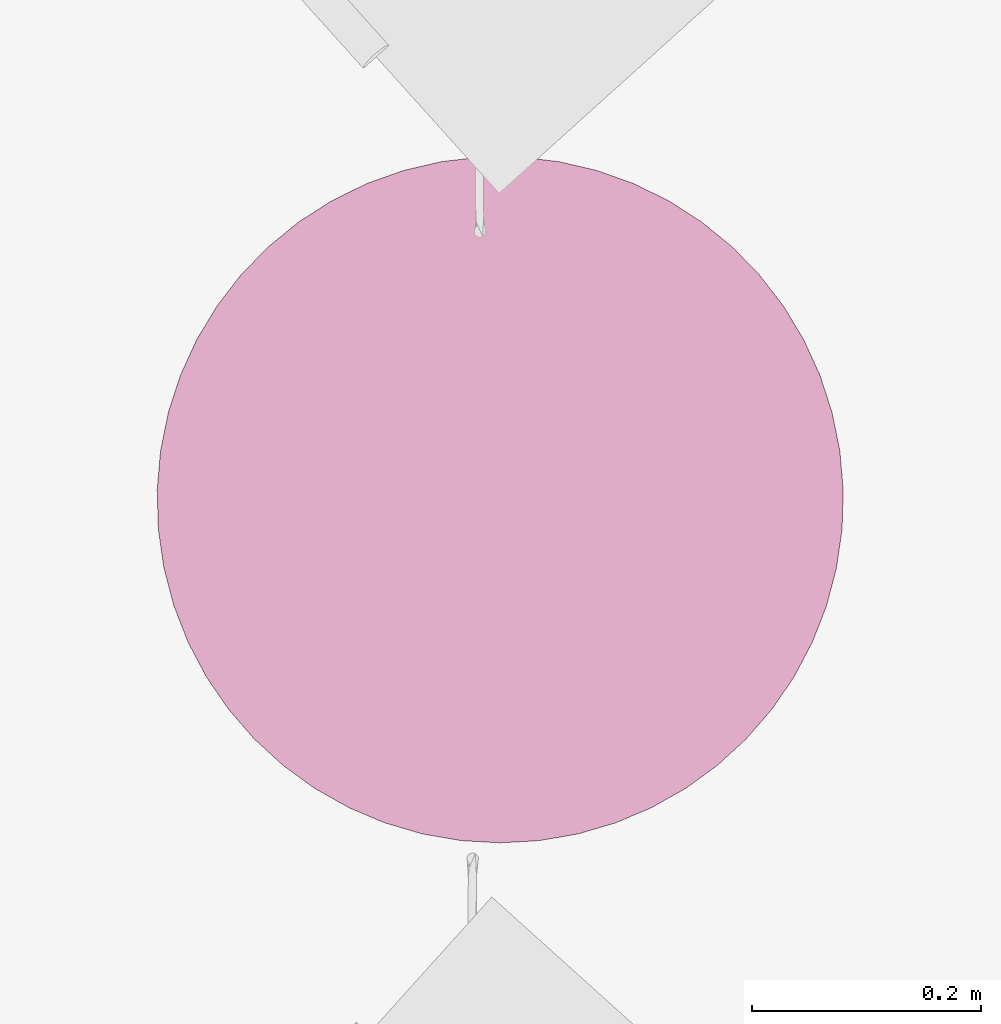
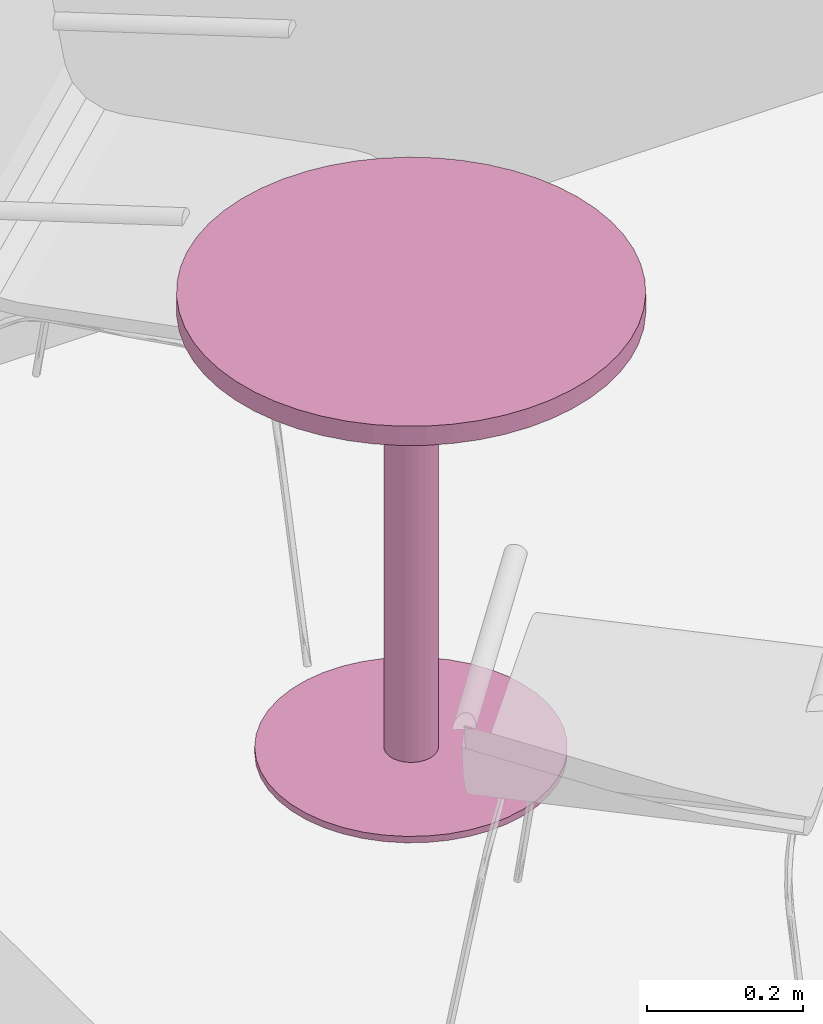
# One storey, part 42 of 58: 1 furnishing.
"""IFC2X3 building model written with IfcOpenShell, lengths in millimetres."""

from ifc_helpers import new_model, entity, si_unit, converted_unit, derived_unit, direction, frame, frame_2d, origin, place, context, subcontext, project, spatial, circle, extrude, source, transform, mapped, material, material_list, type_object, type_shapes, element, save


model = new_model("IFC2X3")

# Units and contexts
model_context = context("Model", 3, precision=0.01, world=origin(), true_north=direction((0.7716245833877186, 0.6360782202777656)))
body_context = subcontext(model_context, "Body", "Model", "MODEL_VIEW")
ifc_project = project(units=[si_unit("LENGTHUNIT", "METRE", prefix="MILLI"), si_unit("AREAUNIT", "SQUARE_METRE"), converted_unit("PLANEANGLEUNIT", "DEGREE", entity("IfcPlaneAngleMeasure", 0.017453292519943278), si_unit("PLANEANGLEUNIT", "RADIAN"), dimensions=[0, 0, 0, 0, 0, 0, 0]), derived_unit("THERMALTRANSMITTANCEUNIT", [(si_unit("MASSUNIT", "GRAM", prefix="KILO"), 1), (si_unit("THERMODYNAMICTEMPERATUREUNIT", "KELVIN"), -1), (si_unit("TIMEUNIT", "SECOND"), -3)])], contexts=[model_context])

# Site, building, storey, space
site_placement = place(None, origin())
site = spatial("IfcSite", under=ifc_project, at=site_placement, Name="Default", CompositionType="ELEMENT")
building_placement = place(site_placement, origin())
building = spatial("IfcBuilding", under=site, at=building_placement, CompositionType="ELEMENT")
storey_placement = place(building_placement, frame((0.0, 0.0, 31140.0)))
storey = spatial("IfcBuildingStorey", under=building, at=storey_placement, Name="PLAN U1", CompositionType="ELEMENT", Elevation=31140.000000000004)
space_placement = place(storey_placement, origin())
space = spatial("IfcSpace", under=storey, at=space_placement, Name="B5-301", CompositionType="ELEMENT", InteriorOrExteriorSpace="INTERNAL")

# Furnishing
ifc_material_1 = material(Name="Plate")
ifc_material_2 = material(Name="Metall")
ifc_material_list = material_list([ifc_material_1, ifc_material_2])
furniture_type = type_object("IfcFurnitureType", Name="Bord-rundt:Bord, Ø600", AssemblyPlace="NOTDEFINED", material=ifc_material_list)
shared_shape = source(origin(), body_context, "Body", "SweptSolid", [
    extrude(circle(Radius=300.0, at=frame_2d((0.0, -1.4172507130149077e-12), x_axis=(1.0, 0.0))), frame((0.0, 0.0, 690.0)), (0.0, 0.0, 1.0), 29.99999999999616),
    extrude(circle(Radius=35.0, at=frame_2d((-4.3957322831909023e-16, -1.575743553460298e-13), x_axis=(1.0, 0.0))), frame((0.0, 0.0, 10.0)), (0.0, 0.0, 1.0), 680.0000000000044),
    extrude(circle(Radius=200.0, at=frame_2d((-8.4218585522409e-15, -9.448338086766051e-13), x_axis=(1.0, 0.0))), origin(), (0.0, 0.0, 1.0), 10.000000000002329),
])
type_shapes(furniture_type, [shared_shape])
furnishing_placement = place(space_placement, frame((259225.7598529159, 56752.271457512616, 0.0), z_axis=(0.0, 0.0, 1.0), x_axis=(0.0, -1.0, 0.0)))
element("IfcFurnishingElement", 1, at=furnishing_placement, inside=space, type_object=furniture_type, material=ifc_material_list, Name="Bord-rundt:Bord, Ø600", ObjectType="Bord-rundt:Bord, Ø600", context=body_context, shape_type="MappedRepresentation", body=[
    mapped(shared_shape, transform((0.0, 0.0, 0.0), scale=1.0)),
])

save(model, "model.ifc")
